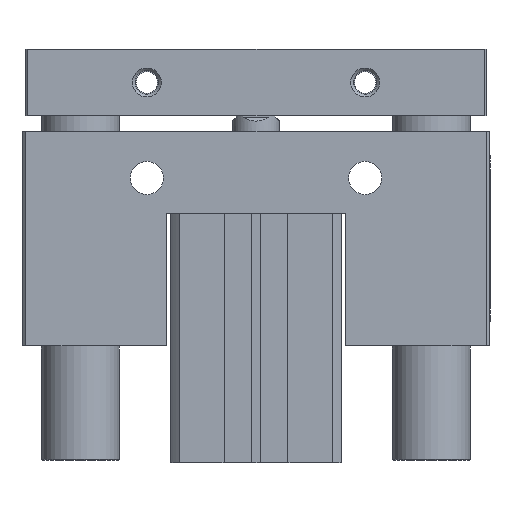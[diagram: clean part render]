
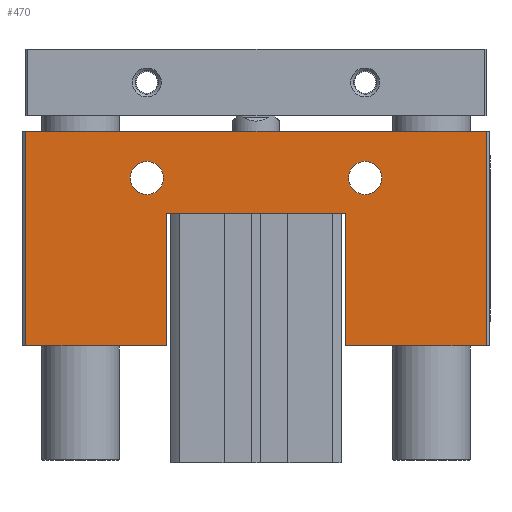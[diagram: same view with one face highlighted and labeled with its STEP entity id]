
A CAD part, front view. The second image highlights one B-rep face of the part: STEP entity #470.
In plain terms, the highlighted planar face has unit normal (0, -1, 0).
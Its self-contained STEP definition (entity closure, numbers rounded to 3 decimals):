
#199=CARTESIAN_POINT('',(-62.726,-23.62,85.));
#200=VERTEX_POINT('',#199);
#207=CARTESIAN_POINT('',(55.274,-23.62,85.));
#208=VERTEX_POINT('',#207);
#209=CARTESIAN_POINT('',(-62.726,-23.62,85.));
#210=DIRECTION('',(1.0,0.0,0.0));
#211=VECTOR('',#210,118.);
#212=LINE('',#209,#211);
#213=EDGE_CURVE('',#200,#208,#212,.T.);
#376=CARTESIAN_POINT('',(-62.726,-23.62,30.));
#377=VERTEX_POINT('',#376);
#384=CARTESIAN_POINT('',(-62.726,-23.62,30.));
#385=DIRECTION('',(0.0,0.0,1.0));
#386=VECTOR('',#385,55.);
#387=LINE('',#384,#386);
#388=EDGE_CURVE('',#377,#200,#387,.T.);
#393=CARTESIAN_POINT('',(-3.726,-23.62,59.533));
#394=DIRECTION('',(0.0,1.0,0.0));
#395=DIRECTION('',(0.0,0.0,1.0));
#396=AXIS2_PLACEMENT_3D('',#393,#394,#395);
#397=PLANE('',#396);
#398=ORIENTED_EDGE('',*,*,#388,.F.);
#399=CARTESIAN_POINT('',(-26.726,-23.62,30.));
#400=VERTEX_POINT('',#399);
#401=CARTESIAN_POINT('',(-26.726,-23.62,30.));
#402=DIRECTION('',(-1.0,0.0,0.0));
#403=VECTOR('',#402,36.);
#404=LINE('',#401,#403);
#405=EDGE_CURVE('',#400,#377,#404,.T.);
#406=ORIENTED_EDGE('',*,*,#405,.F.);
#407=CARTESIAN_POINT('',(-26.726,-23.62,64.0));
#408=VERTEX_POINT('',#407);
#409=CARTESIAN_POINT('',(-26.726,-23.62,64.0));
#410=DIRECTION('',(0.0,0.0,-1.0));
#411=VECTOR('',#410,34.);
#412=LINE('',#409,#411);
#413=EDGE_CURVE('',#408,#400,#412,.T.);
#414=ORIENTED_EDGE('',*,*,#413,.F.);
#415=CARTESIAN_POINT('',(19.274,-23.62,64.0));
#416=VERTEX_POINT('',#415);
#417=CARTESIAN_POINT('',(19.274,-23.62,64.0));
#418=DIRECTION('',(-1.0,0.0,0.0));
#419=VECTOR('',#418,46.);
#420=LINE('',#417,#419);
#421=EDGE_CURVE('',#416,#408,#420,.T.);
#422=ORIENTED_EDGE('',*,*,#421,.F.);
#423=CARTESIAN_POINT('',(19.274,-23.62,30.));
#424=VERTEX_POINT('',#423);
#425=CARTESIAN_POINT('',(19.274,-23.62,30.));
#426=DIRECTION('',(0.0,0.0,1.0));
#427=VECTOR('',#426,34.);
#428=LINE('',#425,#427);
#429=EDGE_CURVE('',#424,#416,#428,.T.);
#430=ORIENTED_EDGE('',*,*,#429,.F.);
#431=CARTESIAN_POINT('',(55.274,-23.62,30.));
#432=VERTEX_POINT('',#431);
#433=CARTESIAN_POINT('',(55.274,-23.62,30.));
#434=DIRECTION('',(-1.0,0.0,0.0));
#435=VECTOR('',#434,36.0);
#436=LINE('',#433,#435);
#437=EDGE_CURVE('',#432,#424,#436,.T.);
#438=ORIENTED_EDGE('',*,*,#437,.F.);
#439=CARTESIAN_POINT('',(55.274,-23.62,85.));
#440=DIRECTION('',(0.0,0.0,-1.0));
#441=VECTOR('',#440,55.);
#442=LINE('',#439,#441);
#443=EDGE_CURVE('',#208,#432,#442,.T.);
#444=ORIENTED_EDGE('',*,*,#443,.F.);
#445=ORIENTED_EDGE('',*,*,#213,.F.);
#446=EDGE_LOOP('',(#398,#406,#414,#422,#430,#438,#444,#445));
#447=FACE_OUTER_BOUND('',#446,.T.);
#448=CARTESIAN_POINT('',(-35.976,-23.62,73.));
#449=VERTEX_POINT('',#448);
#450=CARTESIAN_POINT('',(-31.726,-23.62,73.));
#451=DIRECTION('',(0.0,1.0,0.0));
#452=DIRECTION('',(1.0,0.0,0.0));
#453=AXIS2_PLACEMENT_3D('',#450,#451,#452);
#454=CIRCLE('',#453,4.25);
#455=EDGE_CURVE('',#449,#449,#454,.T.);
#456=ORIENTED_EDGE('',*,*,#455,.T.);
#457=EDGE_LOOP('',(#456));
#458=FACE_BOUND('',#457,.T.);
#459=CARTESIAN_POINT('',(20.024,-23.62,73.));
#460=VERTEX_POINT('',#459);
#461=CARTESIAN_POINT('',(24.274,-23.62,73.));
#462=DIRECTION('',(0.0,1.0,0.0));
#463=DIRECTION('',(1.0,0.0,0.0));
#464=AXIS2_PLACEMENT_3D('',#461,#462,#463);
#465=CIRCLE('',#464,4.25);
#466=EDGE_CURVE('',#460,#460,#465,.T.);
#467=ORIENTED_EDGE('',*,*,#466,.T.);
#468=EDGE_LOOP('',(#467));
#469=FACE_BOUND('',#468,.T.);
#470=ADVANCED_FACE('',(#447,#458,#469),#397,.F.);
